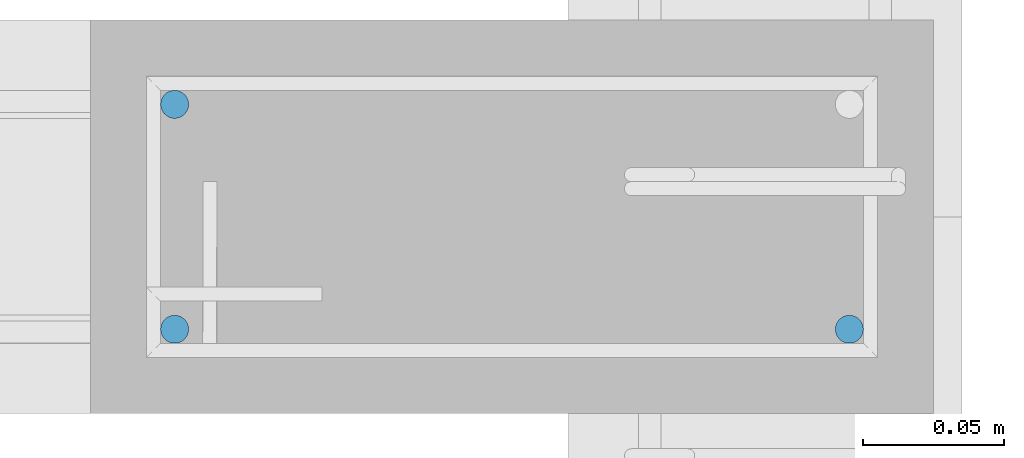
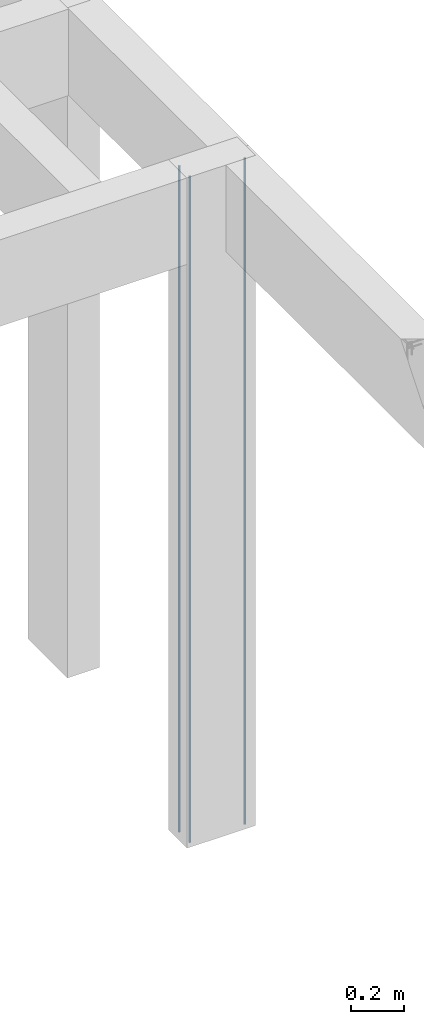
# One storey, part 28 of 236: 3 reinforcing bars.
"""IFC4 building model written with IfcOpenShell, lengths in centimetres."""

from ifc_helpers import new_model, entity, si_unit, derived_unit, frame, origin_with_axes, place, context, project, spatial, element, save


model = new_model("IFC4")

# Units and contexts
model_context = context("Model", 3, precision=1e-05, world=origin_with_axes(), identifier="Body")
ifc_project = project(units=[si_unit("LENGTHUNIT", "METRE", prefix="CENTI"), si_unit("VOLUMEUNIT", "CUBIC_METRE"), si_unit("AREAUNIT", "SQUARE_METRE"), si_unit("POWERUNIT", "WATT"), si_unit("LUMINOUSFLUXUNIT", "LUMEN"), si_unit("ELECTRICCURRENTUNIT", "AMPERE"), si_unit("PRESSUREUNIT", "PASCAL", prefix="KILO"), si_unit("MASSUNIT", "GRAM", prefix="KILO"), si_unit("PLANEANGLEUNIT", "RADIAN"), derived_unit("VOLUMETRICFLOWRATEUNIT", [(si_unit("LENGTHUNIT", "METRE"), 3), (si_unit("TIMEUNIT", "SECOND"), -1)])], contexts=[model_context])

# Site, building, storey
site_placement = place(None, frame((-4000.0, 0.0, 0.0), z_axis=(0.0, 0.0, 1.0), x_axis=(1.0, 0.0, 0.0)))
site = spatial("IfcSite", under=ifc_project, at=site_placement, Name="PADRÃO")
building_placement = place(site_placement, frame((0.0, 0.0, -14.0)))
building = spatial("IfcBuilding", under=site, at=building_placement, Name="CRECHE PRÉ-ESCOLA TIPO 2")
placement_1 = place(building_placement, origin_with_axes())
placement_2 = place(placement_1, frame((0.0, 0.0, 30.0), z_axis=(0.0, 0.0, 1.0), x_axis=(1.0, 0.0, 0.0)))
storey_placement = place(placement_2, frame((0.0, 0.0, 310.0), z_axis=(0.0, 0.0, 1.0), x_axis=(1.0, 0.0, 0.0)))
storey = spatial("IfcBuildingStorey", under=building, at=storey_placement, Name="TERREO", CompositionType="ELEMENT", Elevation=326.0)

# Reinforcing bars
for number, where, z_axis, x_axis, name in (
    (1, (1097.72, 1306.5, -2.0), (0.0, 0.0, 1.0), (1.0, 0.0, 0.0), "P109 - Longitudinal"),
    (2, (1097.72, 1298.5, -2.0), (0.0, 0.0, 1.0), (1.0, 0.0, 0.0), "P109 - Longitudinal"),
    (3, (1121.72, 1298.5, -2.0), (0.0, 0.0, 1.0), (1.0, 0.0, 0.0), "P109 - Longitudinal"),
):
    element("IfcReinforcingBar", number, at=place(storey_placement, frame(where, z_axis=z_axis, x_axis=x_axis)), inside=storey, Name=name, BarLength=0.0, CrossSectionArea=7.853981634e-05, NominalDiameter=1.0, PredefinedType="MAIN", context=model_context, shape_type="AdvancedSweptSolid", body=[
        entity("IfcSweptDiskSolid", entity("IfcCompositeCurve", [entity("IfcCompositeCurveSegment", "CONTINUOUS", True, entity("IfcPolyline", [entity("IfcCartesianPoint", [0.0, 0.0, -308.0]), entity("IfcCartesianPoint", [0.0, 0.0, 0.0])]))], False), 0.5),
    ])

save(model, "model.ifc")
